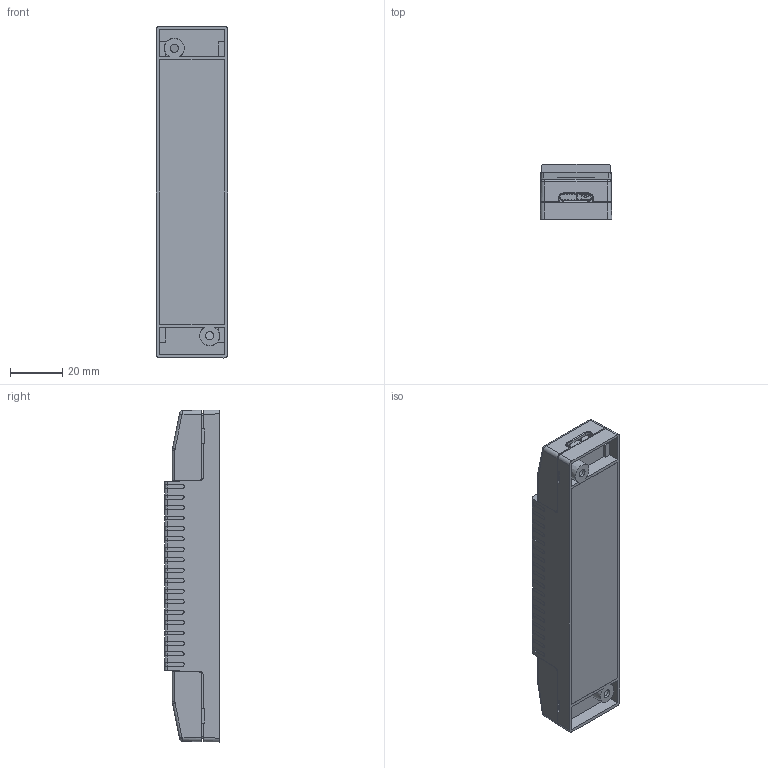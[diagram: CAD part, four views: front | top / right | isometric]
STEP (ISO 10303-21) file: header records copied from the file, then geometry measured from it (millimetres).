
FILE_DESCRIPTION(('Creo Elements/Direct Modeling STEP Export'),'2;1');
FILE_NAME('K120.stp','2025-06-18T14:26:52',(''),(''),'Creo Elements/Direct Modeling STEP processor for AP214 (Solid Model)','Creo Elements/Direct Modeling 20.7 06-Apr-2024 (C) Parametric Technology GmbH','');
FILE_SCHEMA(('AUTOMOTIVE_DESIGN { 1 0 10303 214 1 1 1 1 }'));
Products named in the file (10): casing top; cap input; casing bottom; PCB; GH_744_2P_36_1.PRT; GH_744_2P_36_2.PRT; GH_744_2P_36_3.PRT; clamp input; PCB_; K120
Assembly tree (11 placements, depth 4):
  K120
    PCB_
      clamp input  x2
        GH_744_2P_36_3.PRT
        GH_744_2P_36_2.PRT
        GH_744_2P_36_1.PRT
      PCB
    casing bottom
    cap input  x2
    casing top
Bounding box: 27.4 x 21 x 127 mm (x, y, z)
Volume: 22881.9 mm3; surface area: 39950 mm2
Topology: 11 solids, 11 shells, 4122 faces, 11636 edges, 7740 vertices
Faces by surface type: plane 3764, cylinder 274, extrusion 62, bspline 12, cone 6, torus 4
Entity records: 125138 total; most frequent: CARTESIAN_POINT 24980, ORIENTED_EDGE 21854, DIRECTION 18510, EDGE_CURVE 10927, VECTOR 10204, LINE 10142, VERTEX_POINT 7274, AXIS2_PLACEMENT_3D 4153
